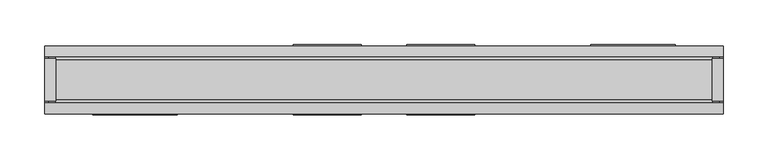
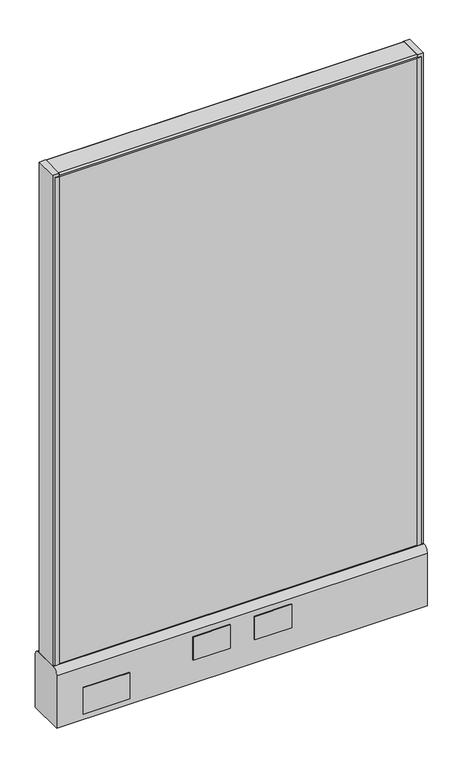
"""IFC4 building model written with IfcOpenShell, lengths in millimetres: furniture geometry."""

from ifc_helpers import new_model, si_unit, point, frame, frame_2d, origin, place, context, project, spatial, polyline, circle_curve, trimmed, segment, composite_curve, outline, extrude, source, transform, mapped, element, save
from ifc_brep_helpers import plane_surface, cylinder_surface, advanced_brep


def furniture_d4c83d08(model_context):
    return source(origin(), model_context, "Body", "SolidModel", [
        extrude(outline(polyline([(-101.6, 39.6875), (-25.4, 39.6875), (-25.4, 38.1), (-101.6, 38.1), (-101.6, 39.6875)])), frame((0.0, 0.0, 60.325), z_axis=(0.0, 0.0, 1.0), x_axis=(1.0, 0.0, 0.0)), (0.0, 0.0, 1.0), 50.8),
        extrude(outline(polyline([(25.4, 39.6875), (101.6, 39.6875), (101.6, 38.1), (25.4, 38.1), (25.4, 39.6875)])), frame((0.0, 0.0, 60.325), z_axis=(0.0, 0.0, 1.0), x_axis=(1.0, 0.0, 0.0)), (0.0, 0.0, 1.0), 50.8),
        extrude(outline(polyline([(-101.6, -38.1), (-25.4, -38.1), (-25.4, -39.6875), (-101.6, -39.6875), (-101.6, -38.1)])), frame((0.0, 0.0, 60.325), z_axis=(0.0, 0.0, 1.0), x_axis=(1.0, 0.0, 0.0)), (0.0, 0.0, 1.0), 50.8),
        extrude(outline(polyline([(25.4, -38.1), (101.6, -38.1), (101.6, -39.6875), (25.4, -39.6875), (25.4, -38.1)])), frame((0.0, 0.0, 60.325), z_axis=(0.0, 0.0, 1.0), x_axis=(1.0, 0.0, 0.0)), (0.0, 0.0, 1.0), 50.8),
        extrude(outline(polyline([(327.025, 38.1), (231.775, 38.1), (231.775, 39.6875), (327.025, 39.6875), (327.025, 38.1)])), frame((0.0, 0.0, 22.225), z_axis=(0.0, 0.0, 1.0), x_axis=(1.0, 0.0, 0.0)), (0.0, 0.0, 1.0), 57.15),
        extrude(outline(polyline([(-231.775, -39.6875), (-327.025, -39.6875), (-327.025, -38.1), (-231.775, -38.1), (-231.775, -39.6875)])), frame((0.0, 0.0, 22.225), z_axis=(0.0, 0.0, 1.0), x_axis=(1.0, 0.0, 0.0)), (0.0, 0.0, 1.0), 57.15),
        advanced_brep(
        [(323.85, 0.0, 0.0), (349.25, 0.0, 0.0), (336.55, 0.0, 0.0), (323.85, 0.0, 4.7625), (349.25, 0.0, 4.7625), (330.2, 0.0, 4.7625), (342.9, 0.0, 4.7625), (330.2, 0.0, 111.125), (342.9, 0.0, 111.125), (336.55, 0.0, 111.125)],
        [
            (0, 1, circle_curve(frame((336.55, 0.0, 0.0), z_axis=(0.0, 0.0, -1.0), x_axis=(1.0, 0.0, 0.0)), 12.7)),
            (1, 2),
            (2, 0),
            (1, 0, circle_curve(frame((336.55, 0.0, 0.0), z_axis=(0.0, 0.0, -1.0), x_axis=(1.0, 0.0, 0.0)), 12.7)),
            (3, 4, circle_curve(frame((336.55, 0.0, 4.7625), z_axis=(0.0, 0.0, -1.0), x_axis=(1.0, 0.0, 0.0)), 12.7)),
            (4, 1),
            (0, 3),
            (4, 3, circle_curve(frame((336.55, 0.0, 4.7625), z_axis=(0.0, 0.0, -1.0), x_axis=(1.0, 0.0, 0.0)), 12.7)),
            (5, 6, circle_curve(frame((336.55, 0.0, 4.7625), z_axis=(0.0, 0.0, -1.0), x_axis=(1.0, 0.0, 0.0)), 6.35)),
            (6, 4),
            (3, 5),
            (6, 5, circle_curve(frame((336.55, 0.0, 4.7625), z_axis=(0.0, 0.0, -1.0), x_axis=(1.0, 0.0, 0.0)), 6.35)),
            (7, 8, circle_curve(frame((336.55, 0.0, 111.125), z_axis=(0.0, 0.0, -1.0), x_axis=(1.0, 0.0, 0.0)), 6.35)),
            (8, 6),
            (5, 7),
            (8, 7, circle_curve(frame((336.55, 0.0, 111.125), z_axis=(0.0, 0.0, -1.0), x_axis=(1.0, 0.0, 0.0)), 6.35)),
            (9, 8),
            (7, 9),
        ],
        [
            plane_surface(frame((336.55, 0.0, 0.0), z_axis=(0.0, 0.0, -1.0), x_axis=(1.0, 0.0, 0.0))),
            cylinder_surface(frame((336.55, 0.0, 114.882153), z_axis=(0.0, 0.0, 1.0), x_axis=(1.0, 0.0, 0.0)), 12.7),
            plane_surface(frame((336.55, 0.0, 4.7625), z_axis=(0.0, 0.0, 1.0), x_axis=(1.0, 0.0, 0.0))),
            cylinder_surface(frame((336.55, 0.0, 114.882153), z_axis=(0.0, 0.0, 1.0), x_axis=(1.0, 0.0, 0.0)), 6.35),
            plane_surface(frame((336.55, 0.0, 111.125), z_axis=(0.0, 0.0, 1.0), x_axis=(1.0, 0.0, 0.0))),
        ],
        [
            (0, [[1, 2, 3]]),
            (0, [[4, -3, -2]]),
            (1, [[5, 6, -1, 7]]),
            (1, [[8, -7, -4, -6]]),
            (2, [[9, 10, -5, 11]]),
            (2, [[12, -11, -8, -10]]),
            (3, [[13, 14, -9, 15]]),
            (3, [[16, -15, -12, -14]]),
            (4, [[17, -13, 18]]),
            (4, [[-18, -16, -17]]),
        ],
    ),
        advanced_brep(
        [(-349.25, 0.0, 4.7625), (-323.85, 0.0, 4.7625), (-323.85, 0.0, 0.0), (-349.25, 0.0, 0.0), (-342.9, 0.0, 4.7625), (-330.2, 0.0, 4.7625), (-342.9, 0.0, 111.125), (-330.2, 0.0, 111.125), (-336.55, 0.0, 111.125), (-336.55, 0.0, 0.0)],
        [
            (0, 1, circle_curve(frame((-336.55, 0.0, 4.7625), z_axis=(0.0, 0.0, -1.0), x_axis=(1.0, 0.0, 0.0)), 12.7)),
            (1, 2),
            (2, 3, circle_curve(frame((-336.55, 0.0, 0.0), z_axis=(0.0, 0.0, 1.0), x_axis=(1.0, 0.0, 0.0)), 12.7)),
            (3, 0),
            (1, 0, circle_curve(frame((-336.55, 0.0, 4.7625), z_axis=(0.0, 0.0, -1.0), x_axis=(1.0, 0.0, 0.0)), 12.7)),
            (3, 2, circle_curve(frame((-336.55, 0.0, 0.0), z_axis=(0.0, 0.0, 1.0), x_axis=(1.0, 0.0, 0.0)), 12.7)),
            (4, 5, circle_curve(frame((-336.55, 0.0, 4.7625), z_axis=(0.0, 0.0, -1.0), x_axis=(1.0, 0.0, 0.0)), 6.35)),
            (5, 1),
            (0, 4),
            (5, 4, circle_curve(frame((-336.55, 0.0, 4.7625), z_axis=(0.0, 0.0, -1.0), x_axis=(1.0, 0.0, 0.0)), 6.35)),
            (6, 7, circle_curve(frame((-336.55, 0.0, 111.125), z_axis=(0.0, 0.0, -1.0), x_axis=(1.0, 0.0, 0.0)), 6.35)),
            (7, 5),
            (4, 6),
            (7, 6, circle_curve(frame((-336.55, 0.0, 111.125), z_axis=(0.0, 0.0, -1.0), x_axis=(1.0, 0.0, 0.0)), 6.35)),
            (8, 7),
            (6, 8),
            (2, 9),
            (9, 3),
        ],
        [
            cylinder_surface(frame((-336.55, 0.0, 123.825), z_axis=(0.0, 0.0, 1.0), x_axis=(1.0, 0.0, 0.0)), 12.7),
            plane_surface(frame((-336.55, 0.0, 4.7625), z_axis=(0.0, 0.0, 1.0), x_axis=(1.0, 0.0, 0.0))),
            cylinder_surface(frame((-336.55, 0.0, 123.825), z_axis=(0.0, 0.0, 1.0), x_axis=(1.0, 0.0, 0.0)), 6.35),
            plane_surface(frame((-336.55, 0.0, 111.125), z_axis=(0.0, 0.0, 1.0), x_axis=(1.0, 0.0, 0.0))),
            plane_surface(frame((-336.55, 0.0, 0.0), z_axis=(0.0, 0.0, -1.0), x_axis=(1.0, 0.0, 0.0))),
        ],
        [
            (0, [[1, 2, 3, 4]]),
            (0, [[5, -4, 6, -2]]),
            (1, [[7, 8, -1, 9]]),
            (1, [[10, -9, -5, -8]]),
            (2, [[11, 12, -7, 13]]),
            (2, [[14, -13, -10, -12]]),
            (3, [[15, -11, 16]]),
            (3, [[-16, -14, -15]]),
            (4, [[-3, 17, 18]]),
            (4, [[-6, -18, -17]]),
        ],
    ),
        extrude(outline(polyline([(-381.0, 23.8125), (-368.3, 23.8125), (-368.3, -23.8125), (-381.0, -23.8125), (-381.0, 23.8125)])), frame((0.0, 0.0, 136.525), z_axis=(0.0, 0.0, 1.0), x_axis=(1.0, 0.0, 0.0)), (0.0, 0.0, 1.0), 1066.8),
        extrude(outline(polyline([(368.3, -23.8125), (368.3, 23.8125), (381.0, 23.8125), (381.0, -23.8125), (368.3, -23.8125)])), frame((0.0, 0.0, 136.525), z_axis=(0.0, 0.0, 1.0), x_axis=(1.0, 0.0, 0.0)), (0.0, 0.0, 1.0), 1066.8),
        extrude(outline(polyline([(-368.3, 25.4), (-368.3, 23.8125), (-376.2375, 23.8125), (-376.2375, 25.4), (-368.3, 25.4)])), frame((0.0, 0.0, 136.525), z_axis=(0.0, 0.0, 1.0), x_axis=(1.0, 0.0, 0.0)), (0.0, 0.0, 1.0), 1060.45),
        extrude(outline(polyline([(-368.3, -25.4), (-376.2375, -25.4), (-376.2375, -23.8125), (-368.3, -23.8125), (-368.3, -25.4)])), frame((0.0, 0.0, 136.525), z_axis=(0.0, 0.0, 1.0), x_axis=(1.0, 0.0, 0.0)), (0.0, 0.0, 1.0), 1060.45),
        extrude(outline(polyline([(376.2375, 23.8125), (368.3, 23.8125), (368.3, 25.4), (376.2375, 25.4), (376.2375, 23.8125)])), frame((0.0, 0.0, 136.525), z_axis=(0.0, 0.0, 1.0), x_axis=(1.0, 0.0, 0.0)), (0.0, 0.0, 1.0), 1060.45),
        extrude(outline(polyline([(368.3, -25.4), (368.3, -23.8125), (376.2375, -23.8125), (376.2375, -25.4), (368.3, -25.4)])), frame((0.0, 0.0, 136.525), z_axis=(0.0, 0.0, 1.0), x_axis=(1.0, 0.0, 0.0)), (0.0, 0.0, 1.0), 1060.45),
        extrude(outline(composite_curve([segment(trimmed(circle_curve(frame_2d((22.225, 1200.15)), 3.175), [point((22.225, 1203.325))], [point((25.4, 1200.15))], False, "CARTESIAN"), True, "CONTINUOUS"), segment(polyline([(25.4, 1200.15), (25.4, 1196.975), (-25.4, 1196.975), (-25.4, 1200.15)]), True, "CONTINUOUS"), segment(trimmed(circle_curve(frame_2d((-22.225, 1200.15)), 3.175), [point((-25.4, 1200.15))], [point((-22.225, 1203.325))], False, "CARTESIAN"), True, "CONTINUOUS"), segment(polyline([(-22.225, 1203.325), (22.225, 1203.325)]), True, "CONTINUOUS")], self_intersect=False)), frame((-368.3, 0.0, 0.0), z_axis=(1.0, 0.0, 0.0), x_axis=(0.0, 1.0, 0.0)), (0.0, 0.0, 1.0), 736.6),
        extrude(outline(composite_curve([segment(trimmed(circle_curve(frame_2d((25.4, 123.825)), 12.7), [point((25.4, 136.525))], [point((38.1, 123.825))], False, "CARTESIAN"), True, "CONTINUOUS"), segment(polyline([(38.1, 123.825), (38.1, 9.525), (-38.1, 9.525), (-38.1, 123.825)]), True, "CONTINUOUS"), segment(trimmed(circle_curve(frame_2d((-25.4, 123.825)), 12.7), [point((-38.1, 123.825))], [point((-25.4, 136.525))], False, "CARTESIAN"), True, "CONTINUOUS"), segment(polyline([(-25.4, 136.525), (25.4, 136.525)]), True, "CONTINUOUS")], self_intersect=False)), frame((-381.0, 0.0, 0.0), z_axis=(1.0, 0.0, 0.0), x_axis=(0.0, 1.0, 0.0)), (0.0, 0.0, 1.0), 762.0),
        extrude(outline(polyline([(368.3, 23.8125), (368.3, -23.8125), (-368.3, -23.8125), (-368.3, 23.8125), (368.3, 23.8125)])), frame((0.0, 0.0, 136.525), z_axis=(0.0, 0.0, 1.0), x_axis=(1.0, 0.0, 0.0)), (0.0, 0.0, 1.0), 1060.45),
    ])


if __name__ == "__main__":
    model = new_model("IFC4")
    model_context = context("Model", 3, world=origin())
    ifc_project = project(units=[si_unit("LENGTHUNIT", "METRE", prefix="MILLI")], contexts=[model_context])
    site = spatial("IfcSite", under=ifc_project)
    building = spatial("IfcBuilding", under=site)
    placement = place(None, origin())
    furniture_shape = furniture_d4c83d08(model_context)
    element("IfcFurniture", 1, ObjectType="HermanMiller_ActionOffice_A1110_Hard-SurfacedPanelStandardBase : 47\"H x 30\"W-G", at=placement, inside=building, context=model_context, shape_type="MappedRepresentation", body=[
        mapped(furniture_shape, transform((0.0, 0.0, 0.0), x_axis=(1.0, 0.0, 0.0), y_axis=(0.0, 1.0, 0.0), z_axis=(0.0, 0.0, 1.0))),
    ])
    save(model, "model.ifc")
